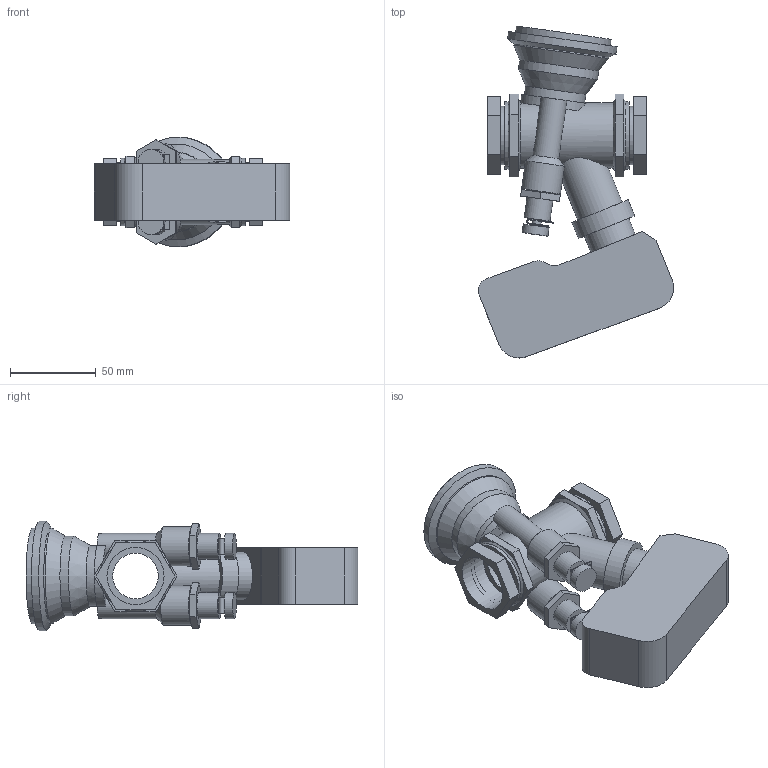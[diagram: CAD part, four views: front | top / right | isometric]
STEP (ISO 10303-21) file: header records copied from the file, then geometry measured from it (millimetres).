
FILE_DESCRIPTION(/* description */ ('VIC BALANCING AND CONTROL VALVE SERIES 7CP (FPT)-TA SLIDER 160','CAx-IF Rec.Pracs.---Representation and Presentation of Product Manufacturing Information (PMI)---4.0---2014-10-13'),/* implementation_level */ '2;1');
FILE_NAME(/* name */ 'C:\Users\Vjadhav\AppData\Roaming\Autodesk\ApplicationPlugins\Victaulic.Temp\A633\Victaulic_IPS_Valve Balancing Pressure Independent_TA Series 7CP (FPT)_Slider 160_1 (25).stp',/* time_stamp */ '2021-09-14T20:03:57+06:00',/* author */ ('Vjadhav'),/* organization */ ('Victaulic'),/* preprocessor_version */ 'ST-DEVELOPER v17.2',/* originating_system */ 'Autodesk Inventor 2019',/* authorisation */ '');
FILE_SCHEMA (('AP242_MANAGED_MODEL_BASED_3D_ENGINEERING_MIM_LF { 1 0 10303 442 1 1 4 }'));
Length unit declared in the file: inch
Products named in the file (2): 7CP_Slider 160-01.0; 7CP-01.0
Assembly tree (1 placements, depth 2):
  7CP_Slider 160-01.0
    7CP-01.0
Bounding box: 114.1 x 194.06 x 64.01 mm (x, y, z)
Volume: 341783.7 mm3; surface area: 69323.7 mm2
Topology: 1 solids, 1 shells, 171 faces, 429 edges, 286 vertices
Faces by surface type: plane 118, cylinder 44, cone 9
Full cylindrical faces by diameter (mm): 5.08 x6, 15.24 x6, 22.86 x2, 26.645 x2, 27.94 x2, 33.401 x3, 34.29 x2, 35.352 x1, 35.56 x1, 38.1 x1, 39.624 x2, 46.609 x1, 55.88 x2, 64.008 x1
Entity records: 5667 total; most frequent: CARTESIAN_POINT 1120, DIRECTION 930, ORIENTED_EDGE 858, EDGE_CURVE 429, AXIS2_PLACEMENT_3D 344, VERTEX_POINT 286, LINE 242, VECTOR 242
